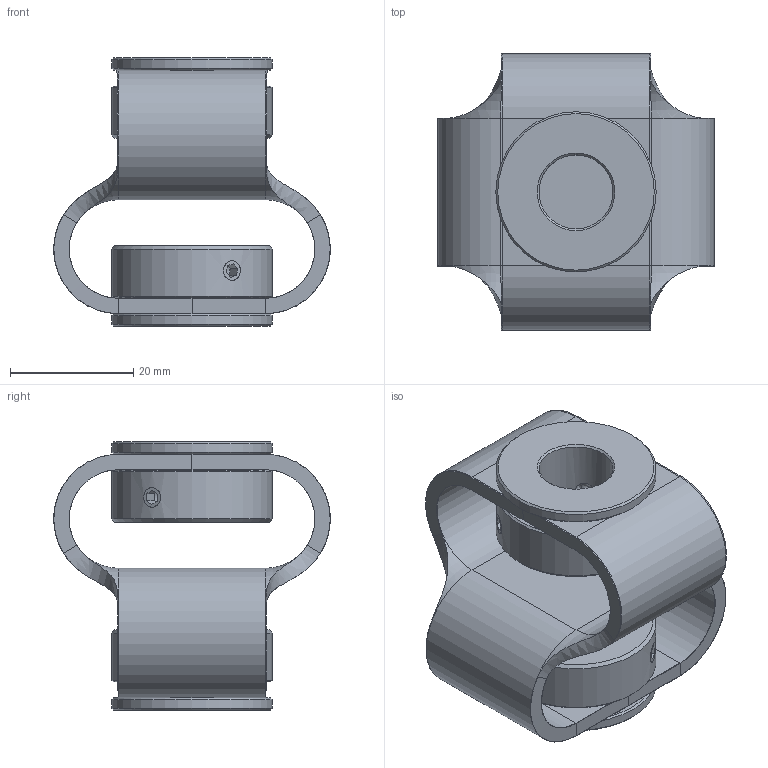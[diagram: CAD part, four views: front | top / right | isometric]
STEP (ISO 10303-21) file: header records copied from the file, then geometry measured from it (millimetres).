
FILE_DESCRIPTION(/* description */ ('Stern '),/* implementation_level */ '2;1');
FILE_NAME(/* name */ 'Z:\ABP-Antriebstechnik\Entwicklung-3D\Paguflex\DKPSF\DKPSF4848 12 12.stp',/* time_stamp */ '2024-03-11T14:51:55+01:00',/* author */ ('christian.fehrenbach'),/* organization */ (''),/* preprocessor_version */ 'ST-DEVELOPER v16.1',/* originating_system */ 'Autodesk Inventor 2016',/* authorisation */ '');
FILE_SCHEMA (('AUTOMOTIVE_DESIGN { 1 0 10303 214 3 1 1 }'));
Length unit declared in the file: millimetre
Products named in the file (4): Stern 4848 gebogen; Schraubnabe 2513 12; M4-6; DKPSF4848 12 12
Assembly tree (7 placements, depth 2):
  DKPSF4848 12 12
    Stern 4848 gebogen
    Schraubnabe 2513 12  x2
    M4-6  x4
Bounding box: 44.87 x 44.87 x 43.5 mm (x, y, z)
Volume: 19556.6 mm3; surface area: 15675.7 mm2
Topology: 7 solids, 11 shells, 174 faces, 368 edges, 206 vertices
Faces by surface type: plane 84, cylinder 46, cone 32, torus 8, bspline 4
Full cylindrical faces by diameter (mm): 3.242 x4, 4 x4, 12 x2, 16.5 x2, 18 x2, 26 x4
Entity records: 3091 total; most frequent: CARTESIAN_POINT 801, DIRECTION 492, ORIENTED_EDGE 420, AXIS2_PLACEMENT_3D 199, EDGE_CURVE 198, EDGE_LOOP 128, VERTEX_POINT 118, FACE_OUTER_BOUND 102
